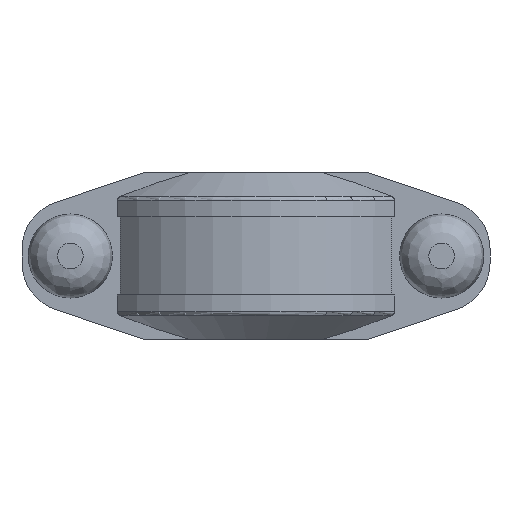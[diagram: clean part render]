
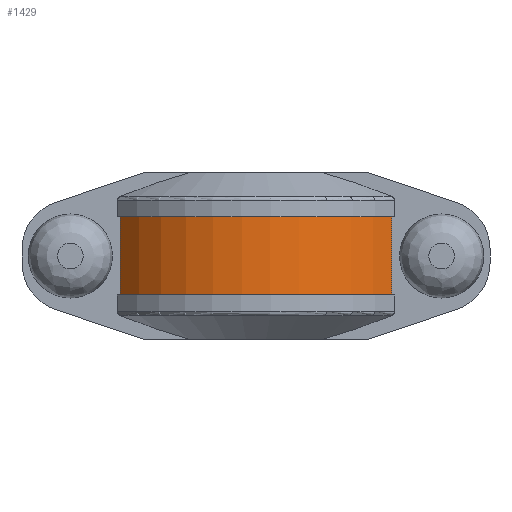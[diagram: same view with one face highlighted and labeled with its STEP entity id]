
A CAD part, front view. The second image highlights one B-rep face of the part: STEP entity #1429.
In plain terms, the highlighted cylindrical face has radius 54.864 mm (diameter 109.728 mm), a partial arc.
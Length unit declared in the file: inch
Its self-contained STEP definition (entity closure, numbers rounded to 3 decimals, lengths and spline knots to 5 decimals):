
#102=CIRCLE('',#1577,2.16);
#103=CIRCLE('',#1578,2.16);
#130=CYLINDRICAL_SURFACE('',#1576,2.16);
#194=FACE_OUTER_BOUND('',#283,.T.);
#283=EDGE_LOOP('',(#1169,#1170,#1171,#1172));
#339=LINE('',#2135,#454);
#413=LINE('',#2471,#528);
#454=VECTOR('',#1725,0.3937);
#528=VECTOR('',#1919,0.3937);
#575=VERTEX_POINT('',#2132);
#576=VERTEX_POINT('',#2134);
#657=VERTEX_POINT('',#2468);
#658=VERTEX_POINT('',#2470);
#719=EDGE_CURVE('',#576,#575,#339,.T.);
#833=EDGE_CURVE('',#658,#657,#413,.T.);
#841=EDGE_CURVE('',#575,#658,#102,.T.);
#842=EDGE_CURVE('',#576,#657,#103,.T.);
#1169=ORIENTED_EDGE('',*,*,#719,.T.);
#1170=ORIENTED_EDGE('',*,*,#841,.T.);
#1171=ORIENTED_EDGE('',*,*,#833,.T.);
#1172=ORIENTED_EDGE('',*,*,#842,.F.);
#1429=ADVANCED_FACE('',(#194),#130,.T.);
#1576=AXIS2_PLACEMENT_3D('',#2493,#1932,#1933);
#1577=AXIS2_PLACEMENT_3D('',#2494,#1934,#1935);
#1578=AXIS2_PLACEMENT_3D('',#2495,#1936,#1937);
#1725=DIRECTION('',(0.,0.,-1.));
#1919=DIRECTION('',(0.,0.,1.));
#1932=DIRECTION('center_axis',(0.,0.,1.));
#1933=DIRECTION('ref_axis',(-1.,0.,0.));
#1934=DIRECTION('center_axis',(0.,0.,1.));
#1935=DIRECTION('ref_axis',(-1.,0.,0.));
#1936=DIRECTION('center_axis',(0.,0.,1.));
#1937=DIRECTION('ref_axis',(-1.,0.,0.));
#2132=CARTESIAN_POINT('',(-1.73989,-1.28,-0.5));
#2134=CARTESIAN_POINT('',(-1.73989,-1.28,0.5));
#2135=CARTESIAN_POINT('',(-1.73989,-1.28,0.));
#2468=CARTESIAN_POINT('',(1.73989,-1.28,0.5));
#2470=CARTESIAN_POINT('',(1.73989,-1.28,-0.5));
#2471=CARTESIAN_POINT('',(1.73989,-1.28,0.));
#2493=CARTESIAN_POINT('Origin',(0.,0.,
0.));
#2494=CARTESIAN_POINT('Origin',(0.,0.,
-0.5));
#2495=CARTESIAN_POINT('Origin',(0.,0.,
0.5));
